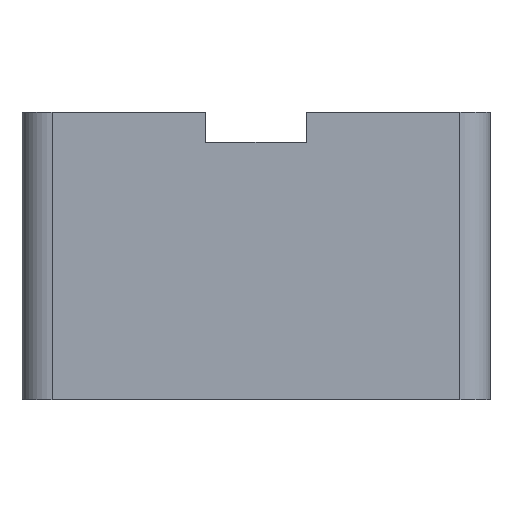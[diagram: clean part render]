
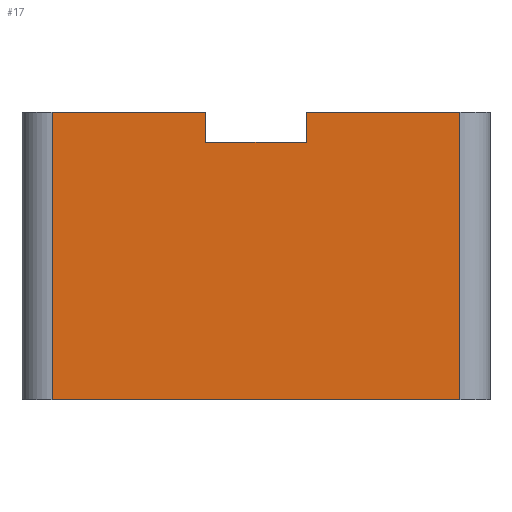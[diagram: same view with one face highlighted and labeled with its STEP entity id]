
A CAD part, left-side view. The second image highlights one B-rep face of the part: STEP entity #17.
In plain terms, the highlighted planar face has unit normal (-1, 0, 0).
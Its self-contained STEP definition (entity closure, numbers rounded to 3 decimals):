
#17 = ADVANCED_FACE('',(#18),#32,.F.);
#18 = FACE_BOUND('',#19,.F.);
#19 = EDGE_LOOP('',(#20,#55,#83,#111,#139,#167,#193,#219));
#20 = ORIENTED_EDGE('',*,*,#21,.F.);
#21 = EDGE_CURVE('',#22,#24,#26,.T.);
#22 = VERTEX_POINT('',#23);
#23 = CARTESIAN_POINT('',(-9.35,-8.15,22.));
#24 = VERTEX_POINT('',#25);
#25 = CARTESIAN_POINT('',(-9.35,-2.,22.));
#26 = SURFACE_CURVE('',#27,(#31,#43),.PCURVE_S1.);
#27 = LINE('',#28,#29);
#28 = CARTESIAN_POINT('',(-9.35,-9.35,22.));
#29 = VECTOR('',#30,1.);
#30 = DIRECTION('',(0.,1.,0.));
#31 = PCURVE('',#32,#37);
#32 = PLANE('',#33);
#33 = AXIS2_PLACEMENT_3D('',#34,#35,#36);
#34 = CARTESIAN_POINT('',(-9.35,-9.35,10.5));
#35 = DIRECTION('',(1.,0.,0.));
#36 = DIRECTION('',(0.,0.,1.));
#37 = DEFINITIONAL_REPRESENTATION('',(#38),#42);
#38 = LINE('',#39,#40);
#39 = CARTESIAN_POINT('',(11.5,0.));
#40 = VECTOR('',#41,1.);
#41 = DIRECTION('',(0.,-1.));
#42 = ( GEOMETRIC_REPRESENTATION_CONTEXT(2) 
PARAMETRIC_REPRESENTATION_CONTEXT() REPRESENTATION_CONTEXT('2D SPACE',''
  ) );
#43 = PCURVE('',#44,#49);
#44 = PLANE('',#45);
#45 = AXIS2_PLACEMENT_3D('',#46,#47,#48);
#46 = CARTESIAN_POINT('',(-9.35,-9.35,22.));
#47 = DIRECTION('',(0.,0.,1.));
#48 = DIRECTION('',(1.,0.,0.));
#49 = DEFINITIONAL_REPRESENTATION('',(#50),#54);
#50 = LINE('',#51,#52);
#51 = CARTESIAN_POINT('',(0.,0.));
#52 = VECTOR('',#53,1.);
#53 = DIRECTION('',(0.,1.));
#54 = ( GEOMETRIC_REPRESENTATION_CONTEXT(2) 
PARAMETRIC_REPRESENTATION_CONTEXT() REPRESENTATION_CONTEXT('2D SPACE',''
  ) );
#55 = ORIENTED_EDGE('',*,*,#56,.F.);
#56 = EDGE_CURVE('',#57,#22,#59,.T.);
#57 = VERTEX_POINT('',#58);
#58 = CARTESIAN_POINT('',(-9.35,-8.15,10.5));
#59 = SURFACE_CURVE('',#60,(#64,#71),.PCURVE_S1.);
#60 = LINE('',#61,#62);
#61 = CARTESIAN_POINT('',(-9.35,-8.15,10.5));
#62 = VECTOR('',#63,1.);
#63 = DIRECTION('',(0.,0.,1.));
#64 = PCURVE('',#32,#65);
#65 = DEFINITIONAL_REPRESENTATION('',(#66),#70);
#66 = LINE('',#67,#68);
#67 = CARTESIAN_POINT('',(0.,-1.2));
#68 = VECTOR('',#69,1.);
#69 = DIRECTION('',(1.,0.));
#70 = ( GEOMETRIC_REPRESENTATION_CONTEXT(2) 
PARAMETRIC_REPRESENTATION_CONTEXT() REPRESENTATION_CONTEXT('2D SPACE',''
  ) );
#71 = PCURVE('',#72,#77);
#72 = CYLINDRICAL_SURFACE('',#73,1.2);
#73 = AXIS2_PLACEMENT_3D('',#74,#75,#76);
#74 = CARTESIAN_POINT('',(-8.15,-8.15,10.5));
#75 = DIRECTION('',(0.,0.,1.));
#76 = DIRECTION('',(-1.,-0.,0.));
#77 = DEFINITIONAL_REPRESENTATION('',(#78),#82);
#78 = LINE('',#79,#80);
#79 = CARTESIAN_POINT('',(0.,0.));
#80 = VECTOR('',#81,1.);
#81 = DIRECTION('',(0.,1.));
#82 = ( GEOMETRIC_REPRESENTATION_CONTEXT(2) 
PARAMETRIC_REPRESENTATION_CONTEXT() REPRESENTATION_CONTEXT('2D SPACE',''
  ) );
#83 = ORIENTED_EDGE('',*,*,#84,.T.);
#84 = EDGE_CURVE('',#57,#85,#87,.T.);
#85 = VERTEX_POINT('',#86);
#86 = CARTESIAN_POINT('',(-9.35,8.15,10.5));
#87 = SURFACE_CURVE('',#88,(#92,#99),.PCURVE_S1.);
#88 = LINE('',#89,#90);
#89 = CARTESIAN_POINT('',(-9.35,-9.35,10.5));
#90 = VECTOR('',#91,1.);
#91 = DIRECTION('',(0.,1.,0.));
#92 = PCURVE('',#32,#93);
#93 = DEFINITIONAL_REPRESENTATION('',(#94),#98);
#94 = LINE('',#95,#96);
#95 = CARTESIAN_POINT('',(0.,0.));
#96 = VECTOR('',#97,1.);
#97 = DIRECTION('',(0.,-1.));
#98 = ( GEOMETRIC_REPRESENTATION_CONTEXT(2) 
PARAMETRIC_REPRESENTATION_CONTEXT() REPRESENTATION_CONTEXT('2D SPACE',''
  ) );
#99 = PCURVE('',#100,#105);
#100 = PLANE('',#101);
#101 = AXIS2_PLACEMENT_3D('',#102,#103,#104);
#102 = CARTESIAN_POINT('',(-9.35,-9.35,10.5));
#103 = DIRECTION('',(0.,0.,1.));
#104 = DIRECTION('',(1.,0.,0.));
#105 = DEFINITIONAL_REPRESENTATION('',(#106),#110);
#106 = LINE('',#107,#108);
#107 = CARTESIAN_POINT('',(0.,0.));
#108 = VECTOR('',#109,1.);
#109 = DIRECTION('',(0.,1.));
#110 = ( GEOMETRIC_REPRESENTATION_CONTEXT(2) 
PARAMETRIC_REPRESENTATION_CONTEXT() REPRESENTATION_CONTEXT('2D SPACE',''
  ) );
#111 = ORIENTED_EDGE('',*,*,#112,.T.);
#112 = EDGE_CURVE('',#85,#113,#115,.T.);
#113 = VERTEX_POINT('',#114);
#114 = CARTESIAN_POINT('',(-9.35,8.15,22.));
#115 = SURFACE_CURVE('',#116,(#120,#127),.PCURVE_S1.);
#116 = LINE('',#117,#118);
#117 = CARTESIAN_POINT('',(-9.35,8.15,10.5));
#118 = VECTOR('',#119,1.);
#119 = DIRECTION('',(0.,0.,1.));
#120 = PCURVE('',#32,#121);
#121 = DEFINITIONAL_REPRESENTATION('',(#122),#126);
#122 = LINE('',#123,#124);
#123 = CARTESIAN_POINT('',(0.,-17.5));
#124 = VECTOR('',#125,1.);
#125 = DIRECTION('',(1.,0.));
#126 = ( GEOMETRIC_REPRESENTATION_CONTEXT(2) 
PARAMETRIC_REPRESENTATION_CONTEXT() REPRESENTATION_CONTEXT('2D SPACE',''
  ) );
#127 = PCURVE('',#128,#133);
#128 = CYLINDRICAL_SURFACE('',#129,1.2);
#129 = AXIS2_PLACEMENT_3D('',#130,#131,#132);
#130 = CARTESIAN_POINT('',(-8.15,8.15,10.5));
#131 = DIRECTION('',(0.,0.,1.));
#132 = DIRECTION('',(-1.,-0.,0.));
#133 = DEFINITIONAL_REPRESENTATION('',(#134),#138);
#134 = LINE('',#135,#136);
#135 = CARTESIAN_POINT('',(-0.,0.));
#136 = VECTOR('',#137,1.);
#137 = DIRECTION('',(-0.,1.));
#138 = ( GEOMETRIC_REPRESENTATION_CONTEXT(2) 
PARAMETRIC_REPRESENTATION_CONTEXT() REPRESENTATION_CONTEXT('2D SPACE',''
  ) );
#139 = ORIENTED_EDGE('',*,*,#140,.F.);
#140 = EDGE_CURVE('',#141,#113,#143,.T.);
#141 = VERTEX_POINT('',#142);
#142 = CARTESIAN_POINT('',(-9.35,2.,22.));
#143 = SURFACE_CURVE('',#144,(#148,#155),.PCURVE_S1.);
#144 = LINE('',#145,#146);
#145 = CARTESIAN_POINT('',(-9.35,-9.35,22.));
#146 = VECTOR('',#147,1.);
#147 = DIRECTION('',(0.,1.,0.));
#148 = PCURVE('',#32,#149);
#149 = DEFINITIONAL_REPRESENTATION('',(#150),#154);
#150 = LINE('',#151,#152);
#151 = CARTESIAN_POINT('',(11.5,0.));
#152 = VECTOR('',#153,1.);
#153 = DIRECTION('',(0.,-1.));
#154 = ( GEOMETRIC_REPRESENTATION_CONTEXT(2) 
PARAMETRIC_REPRESENTATION_CONTEXT() REPRESENTATION_CONTEXT('2D SPACE',''
  ) );
#155 = PCURVE('',#156,#161);
#156 = PLANE('',#157);
#157 = AXIS2_PLACEMENT_3D('',#158,#159,#160);
#158 = CARTESIAN_POINT('',(-9.35,-9.35,22.));
#159 = DIRECTION('',(0.,0.,1.));
#160 = DIRECTION('',(1.,0.,0.));
#161 = DEFINITIONAL_REPRESENTATION('',(#162),#166);
#162 = LINE('',#163,#164);
#163 = CARTESIAN_POINT('',(0.,0.));
#164 = VECTOR('',#165,1.);
#165 = DIRECTION('',(0.,1.));
#166 = ( GEOMETRIC_REPRESENTATION_CONTEXT(2) 
PARAMETRIC_REPRESENTATION_CONTEXT() REPRESENTATION_CONTEXT('2D SPACE',''
  ) );
#167 = ORIENTED_EDGE('',*,*,#168,.F.);
#168 = EDGE_CURVE('',#169,#141,#171,.T.);
#169 = VERTEX_POINT('',#170);
#170 = CARTESIAN_POINT('',(-9.35,2.,20.8));
#171 = SURFACE_CURVE('',#172,(#176,#182),.PCURVE_S1.);
#172 = LINE('',#173,#174);
#173 = CARTESIAN_POINT('',(-9.35,2.,15.65));
#174 = VECTOR('',#175,1.);
#175 = DIRECTION('',(0.,0.,1.));
#176 = PCURVE('',#32,#177);
#177 = DEFINITIONAL_REPRESENTATION('',(#178),#181);
#178 = B_SPLINE_CURVE_WITH_KNOTS('',1,(#179,#180),.UNSPECIFIED.,.F.,.F.,
  (2,2),(5.15,6.35),.PIECEWISE_BEZIER_KNOTS.);
#179 = CARTESIAN_POINT('',(10.3,-11.35));
#180 = CARTESIAN_POINT('',(11.5,-11.35));
#181 = ( GEOMETRIC_REPRESENTATION_CONTEXT(2) 
PARAMETRIC_REPRESENTATION_CONTEXT() REPRESENTATION_CONTEXT('2D SPACE',''
  ) );
#182 = PCURVE('',#183,#188);
#183 = PLANE('',#184);
#184 = AXIS2_PLACEMENT_3D('',#185,#186,#187);
#185 = CARTESIAN_POINT('',(-10.3,2.,20.8));
#186 = DIRECTION('',(0.,1.,0.));
#187 = DIRECTION('',(0.,0.,1.));
#188 = DEFINITIONAL_REPRESENTATION('',(#189),#192);
#189 = B_SPLINE_CURVE_WITH_KNOTS('',1,(#190,#191),.UNSPECIFIED.,.F.,.F.,
  (2,2),(5.15,6.35),.PIECEWISE_BEZIER_KNOTS.);
#190 = CARTESIAN_POINT('',(0.,0.95));
#191 = CARTESIAN_POINT('',(1.2,0.95));
#192 = ( GEOMETRIC_REPRESENTATION_CONTEXT(2) 
PARAMETRIC_REPRESENTATION_CONTEXT() REPRESENTATION_CONTEXT('2D SPACE',''
  ) );
#193 = ORIENTED_EDGE('',*,*,#194,.T.);
#194 = EDGE_CURVE('',#169,#195,#197,.T.);
#195 = VERTEX_POINT('',#196);
#196 = CARTESIAN_POINT('',(-9.35,-2.,20.8));
#197 = SURFACE_CURVE('',#198,(#202,#208),.PCURVE_S1.);
#198 = LINE('',#199,#200);
#199 = CARTESIAN_POINT('',(-9.35,-5.675,20.8));
#200 = VECTOR('',#201,1.);
#201 = DIRECTION('',(0.,-1.,0.));
#202 = PCURVE('',#32,#203);
#203 = DEFINITIONAL_REPRESENTATION('',(#204),#207);
#204 = B_SPLINE_CURVE_WITH_KNOTS('',1,(#205,#206),.UNSPECIFIED.,.F.,.F.,
  (2,2),(-7.675,-3.675),.PIECEWISE_BEZIER_KNOTS.);
#205 = CARTESIAN_POINT('',(10.3,-11.35));
#206 = CARTESIAN_POINT('',(10.3,-7.35));
#207 = ( GEOMETRIC_REPRESENTATION_CONTEXT(2) 
PARAMETRIC_REPRESENTATION_CONTEXT() REPRESENTATION_CONTEXT('2D SPACE',''
  ) );
#208 = PCURVE('',#209,#214);
#209 = PLANE('',#210);
#210 = AXIS2_PLACEMENT_3D('',#211,#212,#213);
#211 = CARTESIAN_POINT('',(-10.3,-2.,20.8));
#212 = DIRECTION('',(0.,0.,1.));
#213 = DIRECTION('',(1.,0.,0.));
#214 = DEFINITIONAL_REPRESENTATION('',(#215),#218);
#215 = B_SPLINE_CURVE_WITH_KNOTS('',1,(#216,#217),.UNSPECIFIED.,.F.,.F.,
  (2,2),(-7.675,-3.675),.PIECEWISE_BEZIER_KNOTS.);
#216 = CARTESIAN_POINT('',(0.95,4.));
#217 = CARTESIAN_POINT('',(0.95,0.));
#218 = ( GEOMETRIC_REPRESENTATION_CONTEXT(2) 
PARAMETRIC_REPRESENTATION_CONTEXT() REPRESENTATION_CONTEXT('2D SPACE',''
  ) );
#219 = ORIENTED_EDGE('',*,*,#220,.T.);
#220 = EDGE_CURVE('',#195,#24,#221,.T.);
#221 = SURFACE_CURVE('',#222,(#226,#232),.PCURVE_S1.);
#222 = LINE('',#223,#224);
#223 = CARTESIAN_POINT('',(-9.35,-2.,15.65));
#224 = VECTOR('',#225,1.);
#225 = DIRECTION('',(0.,0.,1.));
#226 = PCURVE('',#32,#227);
#227 = DEFINITIONAL_REPRESENTATION('',(#228),#231);
#228 = B_SPLINE_CURVE_WITH_KNOTS('',1,(#229,#230),.UNSPECIFIED.,.F.,.F.,
  (2,2),(5.15,6.35),.PIECEWISE_BEZIER_KNOTS.);
#229 = CARTESIAN_POINT('',(10.3,-7.35));
#230 = CARTESIAN_POINT('',(11.5,-7.35));
#231 = ( GEOMETRIC_REPRESENTATION_CONTEXT(2) 
PARAMETRIC_REPRESENTATION_CONTEXT() REPRESENTATION_CONTEXT('2D SPACE',''
  ) );
#232 = PCURVE('',#233,#238);
#233 = PLANE('',#234);
#234 = AXIS2_PLACEMENT_3D('',#235,#236,#237);
#235 = CARTESIAN_POINT('',(-10.3,-2.,20.8));
#236 = DIRECTION('',(0.,1.,0.));
#237 = DIRECTION('',(0.,0.,1.));
#238 = DEFINITIONAL_REPRESENTATION('',(#239),#242);
#239 = B_SPLINE_CURVE_WITH_KNOTS('',1,(#240,#241),.UNSPECIFIED.,.F.,.F.,
  (2,2),(5.15,6.35),.PIECEWISE_BEZIER_KNOTS.);
#240 = CARTESIAN_POINT('',(0.,0.95));
#241 = CARTESIAN_POINT('',(1.2,0.95));
#242 = ( GEOMETRIC_REPRESENTATION_CONTEXT(2) 
PARAMETRIC_REPRESENTATION_CONTEXT() REPRESENTATION_CONTEXT('2D SPACE',''
  ) );
